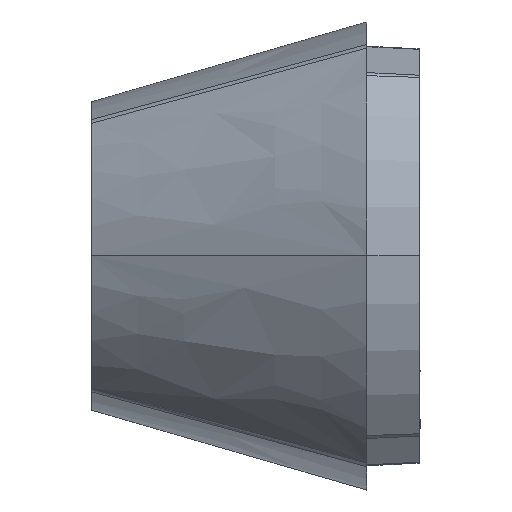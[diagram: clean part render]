
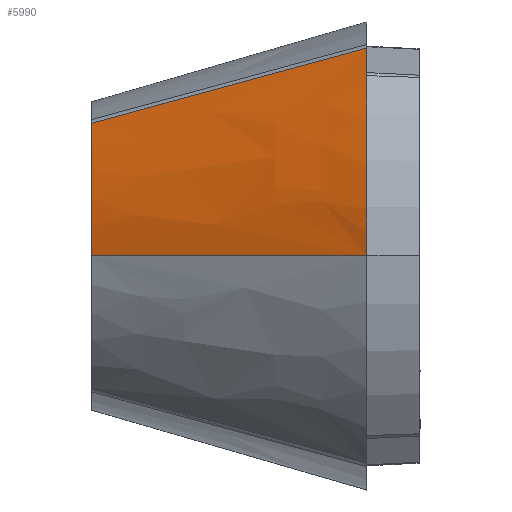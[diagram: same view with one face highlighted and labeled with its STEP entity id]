
A CAD part, top view. The second image highlights one B-rep face of the part: STEP entity #5990.
In plain terms, the highlighted free-form (B-spline) face has degree [3, 3] with [7, 4] control points.
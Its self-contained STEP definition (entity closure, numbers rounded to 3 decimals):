
#1372=CARTESIAN_POINT('',(-68.34,152.896,44.485));
#1373=CARTESIAN_POINT('',(-68.34,151.266,46.207));
#1374=CARTESIAN_POINT('',(-68.34,147.81,49.396));
#1375=CARTESIAN_POINT('',(-68.34,141.996,53.461));
#1376=CARTESIAN_POINT('',(-68.34,135.693,56.697));
#1377=CARTESIAN_POINT('',(-68.34,129.012,59.052));
#1378=CARTESIAN_POINT('',(-68.34,122.063,60.483));
#1379=CARTESIAN_POINT('',(-68.34,117.371,60.803));
#1380=CARTESIAN_POINT('',(-68.34,114.999,60.803));
#1522=CARTESIAN_POINT('',(-118.59,115.,1.445));
#1523=DIRECTION('',(-1.,0.,0.));
#1524=DIRECTION('',(0.,0.,1.));
#1525=AXIS2_PLACEMENT_3D('',#1522,#1523,#1524);
#1773=CARTESIAN_POINT('',(-118.59,139.189,26.373));
#1782=DIRECTION('',(-0.911,-0.249,-0.328));
#1783=VECTOR('',#1782,55.145);
#1784=CARTESIAN_POINT('',(-68.34,152.896,44.485));
#1785=LINE('',#1784,#1783);
#1786=DIRECTION('',(0.898,0.,0.44));
#1787=VECTOR('',#1786,55.958);
#1788=CARTESIAN_POINT('',(-118.59,115.,36.18));
#1789=LINE('',#1788,#1787);
#5144=VERTEX_POINT('',#1372);
#5145=VERTEX_POINT('',#1380);
#5174=CARTESIAN_POINT('',(-118.59,115.,36.18));
#5175=VERTEX_POINT('',#5174);
#5385=VERTEX_POINT('',#1773);
#5954=CARTESIAN_POINT('',(-119.595,114.467,35.683));
#5955=CARTESIAN_POINT('',(-102.175,114.36,44.218));
#5956=CARTESIAN_POINT('',(-84.755,114.253,52.753));
#5957=CARTESIAN_POINT('',(-67.335,114.145,61.288));
#5958=CARTESIAN_POINT('',(-119.595,114.645,35.686));
#5959=CARTESIAN_POINT('',(-102.175,114.573,44.222));
#5960=CARTESIAN_POINT('',(-84.755,114.502,52.757));
#5961=CARTESIAN_POINT('',(-67.335,114.43,61.293));
#5962=CARTESIAN_POINT('',(-119.595,119.263,35.722));
#5963=CARTESIAN_POINT('',(-102.175,120.121,44.266));
#5964=CARTESIAN_POINT('',(-84.755,120.979,52.81));
#5965=CARTESIAN_POINT('',(-67.335,121.837,61.353));
#5966=CARTESIAN_POINT('',(-119.595,128.322,33.945));
#5967=CARTESIAN_POINT('',(-102.175,131.001,42.083));
#5968=CARTESIAN_POINT('',(-84.755,133.681,50.22));
#5969=CARTESIAN_POINT('',(-67.335,136.361,58.358));
#5970=CARTESIAN_POINT('',(-119.595,136.037,28.878));
#5971=CARTESIAN_POINT('',(-102.175,140.196,35.871));
#5972=CARTESIAN_POINT('',(-84.755,144.355,42.865));
#5973=CARTESIAN_POINT('',(-67.335,148.514,49.859));
#5974=CARTESIAN_POINT('',(-119.595,139.312,25.62));
#5975=CARTESIAN_POINT('',(-102.175,144.06,31.892));
#5976=CARTESIAN_POINT('',(-84.755,148.808,38.163));
#5977=CARTESIAN_POINT('',(-67.335,153.557,44.434));
#5978=CARTESIAN_POINT('',(-119.595,139.437,25.494));
#5979=CARTESIAN_POINT('',(-102.175,144.208,31.738));
#5980=CARTESIAN_POINT('',(-84.755,148.978,37.981));
#5981=CARTESIAN_POINT('',(-67.335,153.749,44.224));
#5982=B_SPLINE_SURFACE_WITH_KNOTS('',3,3,((#5954,#5955,#5956,#5957),(#5958,
#5959,#5960,#5961),(#5962,#5963,#5964,#5965),(#5966,#5967,#5968,#5969),(#5970,
#5971,#5972,#5973),(#5974,#5975,#5976,#5977),(#5978,#5979,#5980,#5981)),
.UNSPECIFIED.,.F.,.F.,.F.,(4,1,1,1,4),(4,4),(-0.02,0.,0.5,1.,
1.02),(-0.02,1.01),.UNSPECIFIED.);
#5983=ORIENTED_EDGE('',*,*,#5683,.T.);
#5984=ORIENTED_EDGE('',*,*,#5949,.F.);
#5985=ORIENTED_EDGE('',*,*,#5562,.T.);
#5987=ORIENTED_EDGE('',*,*,#5986,.F.);
#5988=EDGE_LOOP('',(#5983,#5984,#5985,#5987));
#5989=FACE_OUTER_BOUND('',#5988,.F.);
#5990=ADVANCED_FACE('',(#5989),#5982,.F.);
#1381=B_SPLINE_CURVE_WITH_KNOTS('',3,(#1372,#1373,#1374,#1375,#1376,#1377,#1378,
#1379,#1380),.UNSPECIFIED.,.F.,.F.,(4,1,1,1,1,1,4),(0.,0.167,
0.333,0.5,0.667,0.833,1.),
.UNSPECIFIED.);
#1526=CIRCLE('',#1525,34.735);
#5562=EDGE_CURVE('',#5144,#5145,#1381,.T.);
#5683=EDGE_CURVE('',#5175,#5385,#1526,.T.);
#5949=EDGE_CURVE('',#5144,#5385,#1785,.T.);
#5986=EDGE_CURVE('',#5175,#5145,#1789,.T.);
